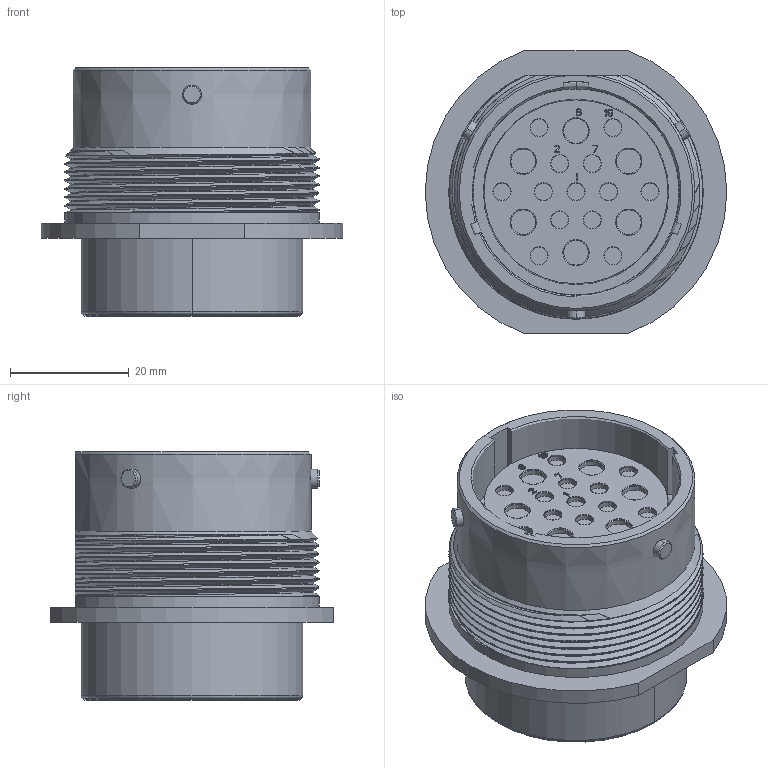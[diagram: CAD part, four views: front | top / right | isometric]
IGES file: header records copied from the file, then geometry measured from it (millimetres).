
Start section:  PTC IGES file: c-hd34-24-19sn-99-3d.igs
Global section: file name: c-hd34-24-19sn-99-3d.igs; native system: Pro/ENGINEER by Parametric Technology Corporation; preprocessor: 2010430; author: workeradm; organization: Unknown; units: millimetre
Bounding box: 50.8 x 47.62 x 41.83 mm (x, y, z)
Surface area: 13900.5 mm2 (no closed solid volume)
Topology: 0 solids, 0 shells, 572 faces, 2720 edges, 2720 vertices
Faces by surface type: bspline 302, revolution 270
